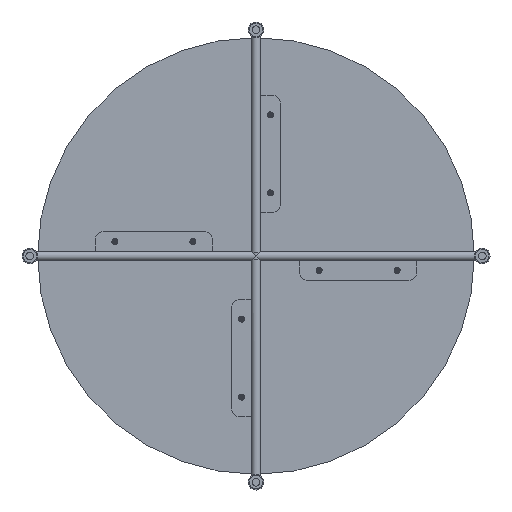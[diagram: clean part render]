
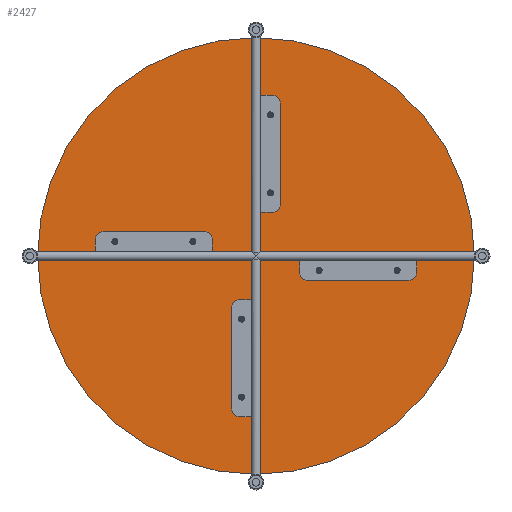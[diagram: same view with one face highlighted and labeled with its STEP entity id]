
A CAD part, front view. The second image highlights one B-rep face of the part: STEP entity #2427.
In plain terms, the highlighted planar face has unit normal (0, -1, 0).
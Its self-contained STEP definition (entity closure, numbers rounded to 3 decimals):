
#470 = DIRECTION ( 'NONE',  ( 0., 0., 1. ) ) ;
#592 = PLANE ( 'NONE',  #6717 ) ;
#705 = VERTEX_POINT ( 'NONE', #3924 ) ;
#1503 = ORIENTED_EDGE ( 'NONE', *, *, #7937, .F. ) ;
#2427 = ADVANCED_FACE ( 'NONE', ( #4933 ), #592, .F. ) ;
#2663 = DIRECTION ( 'NONE',  ( 0., 0., 1. ) ) ;
#2726 = CARTESIAN_POINT ( 'NONE',  ( 0., 0., 0. ) ) ;
#2759 = AXIS2_PLACEMENT_3D ( 'NONE', #3483, #9149, #470 ) ;
#3483 = CARTESIAN_POINT ( 'NONE',  ( 0., 0., 0. ) ) ;
#3808 = CARTESIAN_POINT ( 'NONE',  ( 0., 0., 280. ) ) ;
#3862 = AXIS2_PLACEMENT_3D ( 'NONE', #2726, #4994, #7833 ) ;
#3924 = CARTESIAN_POINT ( 'NONE',  ( 0., 0., -280. ) ) ;
#4224 = ORIENTED_EDGE ( 'NONE', *, *, #5699, .F. ) ;
#4308 = CIRCLE ( 'NONE', #3862, 280. ) ;
#4843 = CARTESIAN_POINT ( 'NONE',  ( 0., 0., 0. ) ) ;
#4933 = FACE_OUTER_BOUND ( 'NONE', #4970, .T. ) ;
#4970 = EDGE_LOOP ( 'NONE', ( #1503, #4224 ) ) ;
#4994 = DIRECTION ( 'NONE',  ( 0., 1., 0. ) ) ;
#5699 = EDGE_CURVE ( 'NONE', #8099, #705, #6856, .T. ) ;
#6717 = AXIS2_PLACEMENT_3D ( 'NONE', #4843, #9137, #2663 ) ;
#6856 = CIRCLE ( 'NONE', #2759, 280. ) ;
#7833 = DIRECTION ( 'NONE',  ( 0., 0., 1. ) ) ;
#7937 = EDGE_CURVE ( 'NONE', #705, #8099, #4308, .T. ) ;
#8099 = VERTEX_POINT ( 'NONE', #3808 ) ;
#9137 = DIRECTION ( 'NONE',  ( 0., 1., 0. ) ) ;
#9149 = DIRECTION ( 'NONE',  ( 0., 1., 0. ) ) ;
